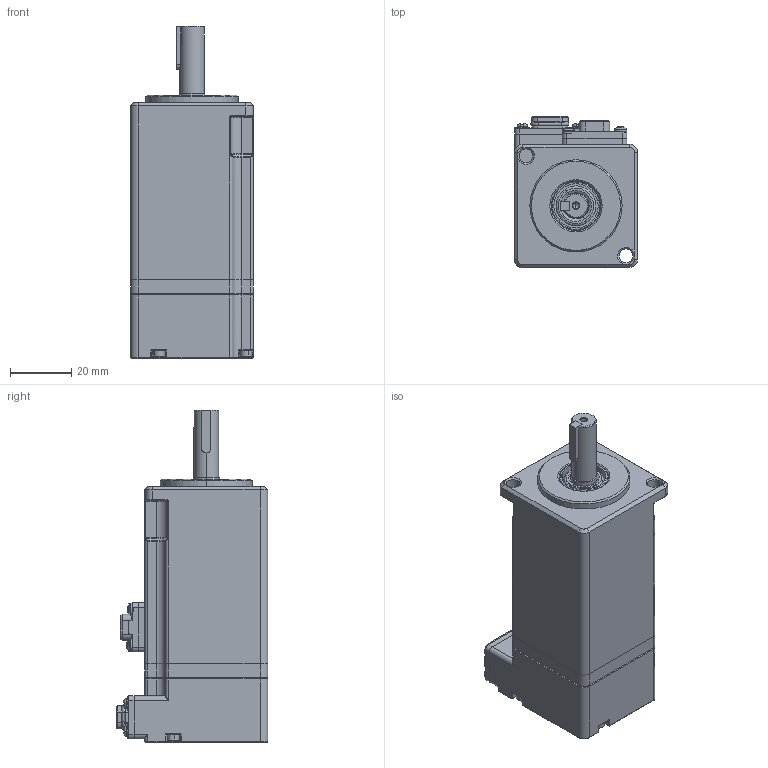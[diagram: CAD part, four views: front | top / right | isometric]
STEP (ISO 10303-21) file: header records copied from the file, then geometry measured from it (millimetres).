
FILE_DESCRIPTION (( 'STEP AP214' ), '1' );
FILE_NAME ('40#不带刹车电机组件-210108.STEP', '2021-07-01T06:49:29', ( '' ), ( '' ), 'SwSTEP 2.0', 'SolidWorks 2014', '' );
FILE_SCHEMA (( 'AUTOMOTIVE_DESIGN' ));
Length unit declared in the file: millimetre
Products named in the file (15): 40#不带刹车电机组件-210108; SC40陔晤鎢ん瑤脣釱sc-mc7p-a6-zhichuxianchazuo201611; 40#不带刹车转子组件201611; SC40陔晤鎢ん欶躇猾菜201611; SC蚐猾 D00B999YF3-TC 9-16-4201611; 隅赽郪璃-橾沺郋32mm201611; 坋趼苤攫芛ISO 7045 - M2 x 5201611; 囀鞠褒 ISO 4762 M2 x 22201611; SC40陔晤鎢ん欶201611; SC40新机壳-整体式-配老铁芯201611; SC普通型 平键   C 3x3x19.5201611; O型圈-35.3内径-1.5mm201611; 粣-饜23弇煦极201611; SC-MC6P-AB2G-04-XIAO6-陔201611; 40陔綴傷裔-橾沺郋201611
Assembly tree (20 placements, depth 3):
  40#不带刹车电机组件-210108
    隅赽郪璃-橾沺郋32mm201611
      SC40新机壳-整体式-配老铁芯201611
      SC-MC6P-AB2G-04-XIAO6-陔201611
    40#不带刹车转子组件201611
      粣-饜23弇煦极201611
      40陔綴傷裔-橾沺郋201611
    SC普通型 平键   C 3x3x19.5201611
    SC40陔晤鎢ん欶201611
    SC40陔晤鎢ん欶躇猾菜201611
    SC40陔晤鎢ん瑤脣釱sc-mc7p-a6-zhichuxianchazuo201611
    SC蚐猾 D00B999YF3-TC 9-16-4201611
    囀鞠褒 ISO 4762 M2 x 22201611  x4
    坋趼苤攫芛ISO 7045 - M2 x 5201611  x4
    O型圈-35.3内径-1.5mm201611
Bounding box: 40 x 49.3 x 108 mm (x, y, z)
Volume: 58305.3 mm3; surface area: 44085.7 mm2
Topology: 27 solids, 27 shells, 2966 faces, 7436 edges, 4550 vertices
Faces by surface type: plane 1429, cylinder 940, bspline 266, cone 201, torus 96, sphere 34
Entity records: 127739 total; most frequent: CARTESIAN_POINT 31903, ORIENTED_EDGE 13768, DIRECTION 13132, EDGE_CURVE 6884, AXIS2_PLACEMENT_3D 4410, VECTOR 4312, LINE 4312, VERTEX_POINT 4265
